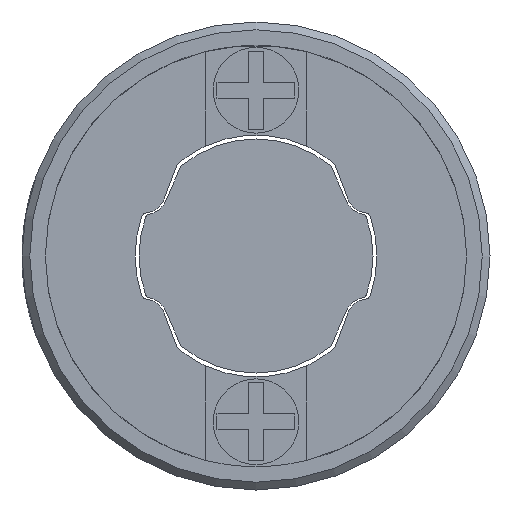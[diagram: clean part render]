
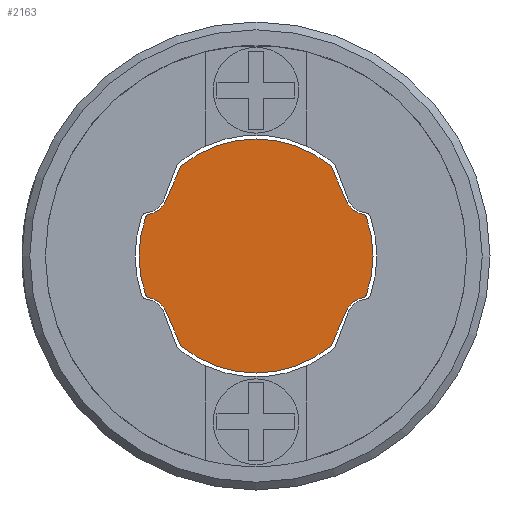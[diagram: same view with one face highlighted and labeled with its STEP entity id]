
A CAD part, left-side view. The second image highlights one B-rep face of the part: STEP entity #2163.
In plain terms, the highlighted planar face has unit normal (-1, 0, 0).
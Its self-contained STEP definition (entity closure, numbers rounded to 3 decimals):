
#40=PLANE('',#2343);
#123=LINE('',#3173,#351);
#131=LINE('',#3209,#359);
#137=LINE('',#3233,#365);
#145=LINE('',#3269,#373);
#351=VECTOR('',#2526,1000.);
#359=VECTOR('',#2566,1000.);
#365=VECTOR('',#2592,1000.);
#373=VECTOR('',#2632,1000.);
#675=ORIENTED_EDGE('',*,*,#1205,.F.);
#676=ORIENTED_EDGE('',*,*,#1263,.F.);
#677=ORIENTED_EDGE('',*,*,#1260,.T.);
#678=ORIENTED_EDGE('',*,*,#1257,.F.);
#679=ORIENTED_EDGE('',*,*,#1254,.F.);
#680=ORIENTED_EDGE('',*,*,#1251,.F.);
#681=ORIENTED_EDGE('',*,*,#1248,.T.);
#682=ORIENTED_EDGE('',*,*,#1245,.F.);
#683=ORIENTED_EDGE('',*,*,#1242,.F.);
#684=ORIENTED_EDGE('',*,*,#1239,.F.);
#685=ORIENTED_EDGE('',*,*,#1236,.F.);
#686=ORIENTED_EDGE('',*,*,#1233,.F.);
#687=ORIENTED_EDGE('',*,*,#1230,.T.);
#688=ORIENTED_EDGE('',*,*,#1227,.F.);
#689=ORIENTED_EDGE('',*,*,#1224,.F.);
#690=ORIENTED_EDGE('',*,*,#1221,.F.);
#691=ORIENTED_EDGE('',*,*,#1218,.T.);
#692=ORIENTED_EDGE('',*,*,#1215,.F.);
#693=ORIENTED_EDGE('',*,*,#1212,.F.);
#694=ORIENTED_EDGE('',*,*,#1209,.F.);
#1205=EDGE_CURVE('',#1520,#1521,#1736,.T.);
#1209=EDGE_CURVE('',#1521,#1524,#1738,.T.);
#1212=EDGE_CURVE('',#1524,#1526,#1740,.T.);
#1215=EDGE_CURVE('',#1526,#1528,#123,.T.);
#1218=EDGE_CURVE('',#1530,#1528,#1742,.T.);
#1221=EDGE_CURVE('',#1530,#1532,#1744,.T.);
#1224=EDGE_CURVE('',#1532,#1534,#1746,.T.);
#1227=EDGE_CURVE('',#1534,#1536,#1748,.T.);
#1230=EDGE_CURVE('',#1538,#1536,#1750,.T.);
#1233=EDGE_CURVE('',#1538,#1540,#131,.T.);
#1236=EDGE_CURVE('',#1540,#1542,#1752,.T.);
#1239=EDGE_CURVE('',#1542,#1544,#1754,.T.);
#1242=EDGE_CURVE('',#1544,#1546,#1756,.T.);
#1245=EDGE_CURVE('',#1546,#1548,#137,.T.);
#1248=EDGE_CURVE('',#1550,#1548,#1758,.T.);
#1251=EDGE_CURVE('',#1550,#1552,#1760,.T.);
#1254=EDGE_CURVE('',#1552,#1554,#1762,.T.);
#1257=EDGE_CURVE('',#1554,#1556,#1764,.T.);
#1260=EDGE_CURVE('',#1558,#1556,#1766,.T.);
#1263=EDGE_CURVE('',#1558,#1520,#145,.T.);
#1520=VERTEX_POINT('',#3153);
#1521=VERTEX_POINT('',#3154);
#1524=VERTEX_POINT('',#3162);
#1526=VERTEX_POINT('',#3168);
#1528=VERTEX_POINT('',#3174);
#1530=VERTEX_POINT('',#3180);
#1532=VERTEX_POINT('',#3186);
#1534=VERTEX_POINT('',#3192);
#1536=VERTEX_POINT('',#3198);
#1538=VERTEX_POINT('',#3204);
#1540=VERTEX_POINT('',#3210);
#1542=VERTEX_POINT('',#3216);
#1544=VERTEX_POINT('',#3222);
#1546=VERTEX_POINT('',#3228);
#1548=VERTEX_POINT('',#3234);
#1550=VERTEX_POINT('',#3240);
#1552=VERTEX_POINT('',#3246);
#1554=VERTEX_POINT('',#3252);
#1556=VERTEX_POINT('',#3258);
#1558=VERTEX_POINT('',#3264);
#1736=CIRCLE('',#2291,0.15);
#1738=CIRCLE('',#2294,1.5);
#1740=CIRCLE('',#2297,0.15);
#1742=CIRCLE('',#2301,0.3);
#1744=CIRCLE('',#2304,0.07);
#1746=CIRCLE('',#2307,1.5);
#1748=CIRCLE('',#2310,0.07);
#1750=CIRCLE('',#2313,0.3);
#1752=CIRCLE('',#2317,0.15);
#1754=CIRCLE('',#2320,1.5);
#1756=CIRCLE('',#2323,0.15);
#1758=CIRCLE('',#2327,0.3);
#1760=CIRCLE('',#2330,0.07);
#1762=CIRCLE('',#2333,1.5);
#1764=CIRCLE('',#2336,0.07);
#1766=CIRCLE('',#2339,0.3);
#1843=EDGE_LOOP('',(#675,#676,#677,#678,#679,#680,#681,#682,#683,#684,#685,
#686,#687,#688,#689,#690,#691,#692,#693,#694));
#1985=FACE_BOUND('',#1843,.T.);
#2163=ADVANCED_FACE('',(#1985),#40,.F.);
#2291=AXIS2_PLACEMENT_3D('',#3152,#2504,#2505);
#2294=AXIS2_PLACEMENT_3D('',#3161,#2512,#2513);
#2297=AXIS2_PLACEMENT_3D('',#3167,#2519,#2520);
#2301=AXIS2_PLACEMENT_3D('',#3179,#2531,#2532);
#2304=AXIS2_PLACEMENT_3D('',#3185,#2538,#2539);
#2307=AXIS2_PLACEMENT_3D('',#3191,#2545,#2546);
#2310=AXIS2_PLACEMENT_3D('',#3197,#2552,#2553);
#2313=AXIS2_PLACEMENT_3D('',#3203,#2559,#2560);
#2317=AXIS2_PLACEMENT_3D('',#3215,#2571,#2572);
#2320=AXIS2_PLACEMENT_3D('',#3221,#2578,#2579);
#2323=AXIS2_PLACEMENT_3D('',#3227,#2585,#2586);
#2327=AXIS2_PLACEMENT_3D('',#3239,#2597,#2598);
#2330=AXIS2_PLACEMENT_3D('',#3245,#2604,#2605);
#2333=AXIS2_PLACEMENT_3D('',#3251,#2611,#2612);
#2336=AXIS2_PLACEMENT_3D('',#3257,#2618,#2619);
#2339=AXIS2_PLACEMENT_3D('',#3263,#2625,#2626);
#2343=AXIS2_PLACEMENT_3D('',#3272,#2636,#2637);
#2504=DIRECTION('',(1.,0.,0.));
#2505=DIRECTION('',(0.,0.,-1.));
#2512=DIRECTION('',(1.,0.,0.));
#2513=DIRECTION('',(0.,0.,-1.));
#2519=DIRECTION('',(1.,0.,0.));
#2520=DIRECTION('',(0.,0.,-1.));
#2526=DIRECTION('',(0.,-0.397,-0.918));
#2531=DIRECTION('',(1.,0.,0.));
#2532=DIRECTION('',(0.,0.,-1.));
#2538=DIRECTION('',(1.,0.,0.));
#2539=DIRECTION('',(0.,0.,-1.));
#2545=DIRECTION('',(1.,0.,0.));
#2546=DIRECTION('',(0.,0.,-1.));
#2552=DIRECTION('',(1.,0.,0.));
#2553=DIRECTION('',(0.,0.,-1.));
#2559=DIRECTION('',(1.,0.,0.));
#2560=DIRECTION('',(0.,0.,-1.));
#2566=DIRECTION('',(0.,0.397,-0.918));
#2571=DIRECTION('',(1.,0.,0.));
#2572=DIRECTION('',(0.,0.,-1.));
#2578=DIRECTION('',(1.,0.,0.));
#2579=DIRECTION('',(0.,0.,-1.));
#2585=DIRECTION('',(1.,0.,0.));
#2586=DIRECTION('',(0.,0.,-1.));
#2592=DIRECTION('',(0.,0.397,0.918));
#2597=DIRECTION('',(1.,0.,0.));
#2598=DIRECTION('',(0.,0.,-1.));
#2604=DIRECTION('',(1.,0.,0.));
#2605=DIRECTION('',(0.,0.,-1.));
#2611=DIRECTION('',(1.,0.,0.));
#2612=DIRECTION('',(0.,0.,-1.));
#2618=DIRECTION('',(1.,0.,0.));
#2619=DIRECTION('',(0.,0.,-1.));
#2625=DIRECTION('',(1.,0.,0.));
#2626=DIRECTION('',(0.,0.,-1.));
#2632=DIRECTION('',(0.,-0.397,0.918));
#2636=DIRECTION('',(1.,0.,0.));
#2637=DIRECTION('',(0.,0.,-1.));
#3152=CARTESIAN_POINT('',(0.,0.84,1.06));
#3153=CARTESIAN_POINT('',(0.,0.978,1.12));
#3154=CARTESIAN_POINT('',(0.,0.954,1.158));
#3161=CARTESIAN_POINT('',(0.,0.,0.));
#3162=CARTESIAN_POINT('',(0.,-0.954,1.158));
#3167=CARTESIAN_POINT('',(0.,-0.84,1.06));
#3168=CARTESIAN_POINT('',(0.,-0.978,1.12));
#3173=CARTESIAN_POINT('',(0.,-0.978,1.12));
#3174=CARTESIAN_POINT('',(0.,-1.155,0.711));
#3179=CARTESIAN_POINT('',(0.,-1.43,0.83));
#3180=CARTESIAN_POINT('',(0.,-1.366,0.537));
#3185=CARTESIAN_POINT('',(0.,-1.351,0.469));
#3186=CARTESIAN_POINT('',(0.,-1.417,0.491));
#3191=CARTESIAN_POINT('',(0.,0.,0.));
#3192=CARTESIAN_POINT('',(0.,-1.417,-0.491));
#3197=CARTESIAN_POINT('',(0.,-1.351,-0.469));
#3198=CARTESIAN_POINT('',(0.,-1.366,-0.537));
#3203=CARTESIAN_POINT('',(0.,-1.43,-0.83));
#3204=CARTESIAN_POINT('',(0.,-1.155,-0.711));
#3209=CARTESIAN_POINT('',(0.,-1.155,-0.711));
#3210=CARTESIAN_POINT('',(0.,-0.978,-1.12));
#3215=CARTESIAN_POINT('',(0.,-0.84,-1.06));
#3216=CARTESIAN_POINT('',(0.,-0.954,-1.158));
#3221=CARTESIAN_POINT('',(0.,0.,0.));
#3222=CARTESIAN_POINT('',(0.,0.954,-1.158));
#3227=CARTESIAN_POINT('',(0.,0.84,-1.06));
#3228=CARTESIAN_POINT('',(0.,0.978,-1.12));
#3233=CARTESIAN_POINT('',(0.,0.978,-1.12));
#3234=CARTESIAN_POINT('',(0.,1.155,-0.711));
#3239=CARTESIAN_POINT('',(0.,1.43,-0.83));
#3240=CARTESIAN_POINT('',(0.,1.366,-0.537));
#3245=CARTESIAN_POINT('',(0.,1.351,-0.469));
#3246=CARTESIAN_POINT('',(0.,1.417,-0.491));
#3251=CARTESIAN_POINT('',(0.,0.,0.));
#3252=CARTESIAN_POINT('',(0.,1.417,0.491));
#3257=CARTESIAN_POINT('',(0.,1.351,0.469));
#3258=CARTESIAN_POINT('',(0.,1.366,0.537));
#3263=CARTESIAN_POINT('',(0.,1.43,0.83));
#3264=CARTESIAN_POINT('',(0.,1.155,0.711));
#3269=CARTESIAN_POINT('',(0.,1.155,0.711));
#3272=CARTESIAN_POINT('',(0.,0.84,1.06));
